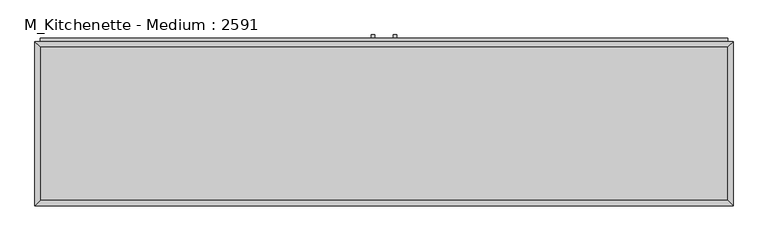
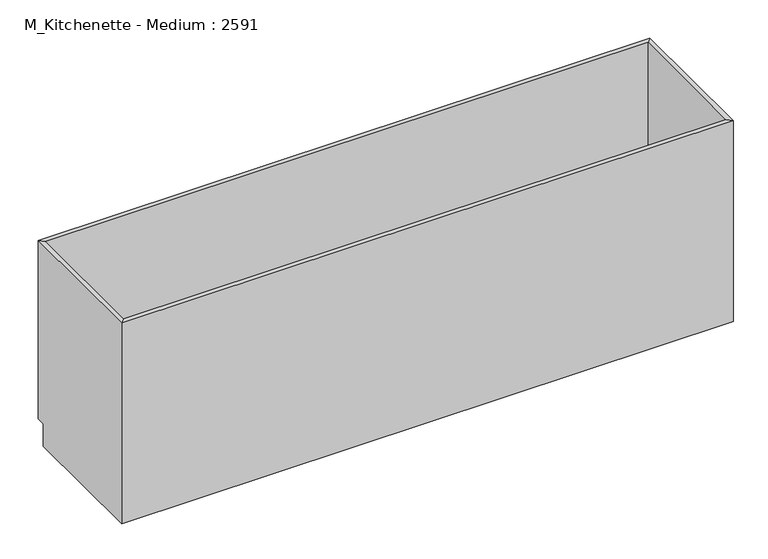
"""IFC4 building model written with IfcOpenShell, lengths in millimetres: proxy geometry, M_Kitchenette - Medium : 2591."""

from ifc_helpers import new_model, si_unit, frame, origin, place, context, project, spatial, polyline, outline, extrude, faceted_brep, source, transform, mapped, element, save


def m_kitchenette_medium_2591_5feaf90f(model_context):
    return source(origin(), model_context, "Body", "SolidModel", [
        faceted_brep([(1295.1877049, 590.95, 900.0), (-1257.7122951, 590.95, 900.0), (-1257.7122951, 590.95, 100.0), (1295.1877049, 590.95, 100.0), (1314.2377049, 610.0, 900.0), (-1276.7622951, 610.0, 900.0), (1314.2377049, 610.0, 100.0), (-1276.7622951, 610.0, 100.0), (-1257.7122951, 19.05, 900.0), (-1257.7122951, 19.05, 100.0), (-1257.7122951, 575.0, 100.0), (-1276.7622951, 0.0, 900.0), (-1276.7622951, 575.0, 100.0), (-1276.7622951, 575.0, 0.0), (-1276.7622951, 0.0, 0.0), (1295.1877049, 19.05, 900.0), (1295.1877049, 19.05, 100.0), (1314.2377049, 0.0, 900.0), (1314.2377049, 0.0, 0.0), (1295.1877049, 575.0, 100.0), (1314.2377049, 575.0, 0.0), (1314.2377049, 575.0, 100.0)], [[[0, 1, 2, 3]], [[0, 4, 5, 1]], [[4, 6, 7, 5]], [[2, 7, 6, 3]], [[1, 8, 9, 10, 2]], [[5, 11, 8, 1]], [[7, 12, 13, 14, 11, 5]], [[2, 10, 12, 7]], [[8, 15, 16, 9]], [[11, 17, 15, 8]], [[14, 18, 17, 11]], [[3, 19, 16, 15, 0]], [[0, 15, 17, 4]], [[4, 17, 18, 20, 21, 6]], [[6, 21, 19, 3]], [[10, 9, 16, 19]], [[18, 14, 13, 20]], [[13, 12, 10, 19, 21, 20]]]),
        extrude(outline(polyline([(-16.1872951, 635.4), (-16.1872951, 622.7), (-28.8872951, 622.7), (-28.8872951, 635.4), (-16.1872951, 635.4)])), frame((0.0, 0.0, 620.6), z_axis=(0.0, 0.0, 1.0), x_axis=(1.0, 0.0, 0.0)), (0.0, 0.0, 1.0), 101.6),
        extrude(outline(polyline([(66.3627049, 635.4), (66.3627049, 622.7), (53.6627049, 622.7), (53.6627049, 635.4), (66.3627049, 635.4)])), frame((0.0, 0.0, 620.6), z_axis=(0.0, 0.0, 1.0), x_axis=(1.0, 0.0, 0.0)), (0.0, 0.0, 1.0), 101.6),
        extrude(outline(polyline([(1295.1877049, 19.05), (-1257.7122951, 19.05), (-1257.7122951, 590.95), (1295.1877049, 590.95), (1295.1877049, 19.05)])), frame((0.0, 0.0, 100.0), z_axis=(0.0, 0.0, 1.0), x_axis=(1.0, 0.0, 0.0)), (0.0, 0.0, 1.0), 19.05),
        extrude(outline(polyline([(9.2127049, 622.7), (9.2127049, 610.0), (-1257.7122951, 610.0), (-1257.7122951, 622.7), (9.2127049, 622.7)])), frame((0.0, 0.0, 119.05), z_axis=(0.0, 0.0, 1.0), x_axis=(1.0, 0.0, 0.0)), (0.0, 0.0, 1.0), 641.25),
        extrude(outline(polyline([(1295.1877049, 622.7), (1295.1877049, 610.0), (28.2627049, 610.0), (28.2627049, 622.7), (1295.1877049, 622.7)])), frame((0.0, 0.0, 119.05), z_axis=(0.0, 0.0, 1.0), x_axis=(1.0, 0.0, 0.0)), (0.0, 0.0, 1.0), 641.25),
        extrude(outline(polyline([(1295.1877049, 622.7), (1295.1877049, 610.0), (-1257.7122951, 610.0), (-1257.7122951, 622.7), (1295.1877049, 622.7)])), frame((0.0, 0.0, 779.35), z_axis=(0.0, 0.0, 1.0), x_axis=(1.0, 0.0, 0.0)), (0.0, 0.0, 1.0), 101.6),
    ])


if __name__ == "__main__":
    model = new_model("IFC4")
    model_context = context("Model", 3, world=origin())
    ifc_project = project(units=[si_unit("LENGTHUNIT", "METRE", prefix="MILLI")], contexts=[model_context])
    site = spatial("IfcSite", under=ifc_project)
    building = spatial("IfcBuilding", under=site)
    placement = place(None, origin())
    m_kitchenette_medium_2591_shape = m_kitchenette_medium_2591_5feaf90f(model_context)
    element("IfcBuildingElementProxy", 1, Name="M_Kitchenette - Medium : 2591", ObjectType="M_Kitchenette - Medium : 2591", at=placement, inside=building, context=model_context, shape_type="MappedRepresentation", body=[
        mapped(m_kitchenette_medium_2591_shape, transform((0.0, 0.0, 0.0), x_axis=(1.0, 0.0, 0.0), y_axis=(0.0, 1.0, 0.0), z_axis=(0.0, 0.0, 1.0))),
    ])
    save(model, "model.ifc")
